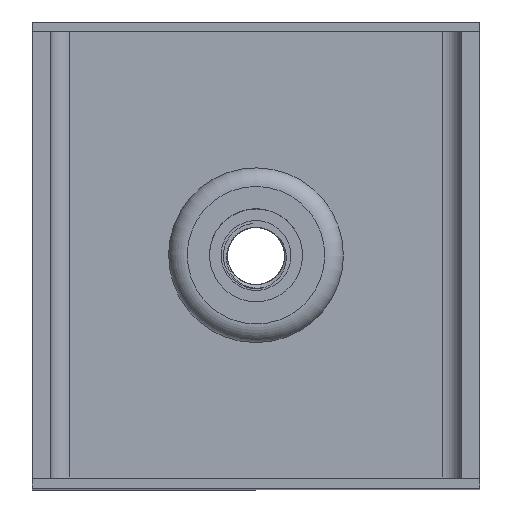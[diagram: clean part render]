
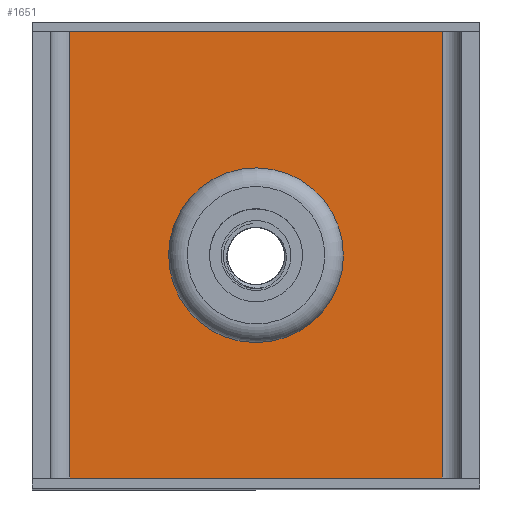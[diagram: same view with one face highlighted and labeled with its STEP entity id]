
A CAD part, top view. The second image highlights one B-rep face of the part: STEP entity #1651.
In plain terms, the highlighted planar face has unit normal (0, 0, 1).
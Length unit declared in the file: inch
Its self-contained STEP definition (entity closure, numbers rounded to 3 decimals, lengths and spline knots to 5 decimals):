
#1083=CARTESIAN_POINT('',(2.6875,-2.625,0.25));
#1084=VERTEX_POINT('',#1083);
#1085=CARTESIAN_POINT('',(1.75,-2.625,0.25));
#1086=DIRECTION('',(0.0,0.0,-1.0));
#1087=DIRECTION('',(-1.0,0.0,0.0));
#1088=AXIS2_PLACEMENT_3D('',#1085,#1086,#1087);
#1089=CIRCLE('',#1088,0.9375);
#1090=EDGE_CURVE('',#1084,#1084,#1089,.T.);
#1228=CARTESIAN_POINT('',(4.25,-5.625,0.25));
#1229=VERTEX_POINT('',#1228);
#1254=CARTESIAN_POINT('',(4.25,0.375,0.25));
#1255=VERTEX_POINT('',#1254);
#1332=CARTESIAN_POINT('',(4.25,-5.625,0.25));
#1333=DIRECTION('',(0.0,1.0,0.0));
#1334=VECTOR('',#1333,6.);
#1335=LINE('',#1332,#1334);
#1336=EDGE_CURVE('',#1229,#1255,#1335,.T.);
#1356=CARTESIAN_POINT('',(-0.75,0.375,0.25));
#1357=VERTEX_POINT('',#1356);
#1364=CARTESIAN_POINT('',(-0.75,0.375,0.25));
#1365=DIRECTION('',(1.0,0.0,0.0));
#1366=VECTOR('',#1365,5.0);
#1367=LINE('',#1364,#1366);
#1368=EDGE_CURVE('',#1357,#1255,#1367,.T.);
#1532=CARTESIAN_POINT('',(-0.75,-5.625,0.25));
#1533=VERTEX_POINT('',#1532);
#1610=CARTESIAN_POINT('',(-0.75,0.375,0.25));
#1611=DIRECTION('',(0.0,-1.0,0.0));
#1612=VECTOR('',#1611,6.0);
#1613=LINE('',#1610,#1612);
#1614=EDGE_CURVE('',#1357,#1533,#1613,.T.);
#1626=CARTESIAN_POINT('',(4.25,-5.625,0.25));
#1627=DIRECTION('',(-1.0,0.0,0.0));
#1628=VECTOR('',#1627,5.);
#1629=LINE('',#1626,#1628);
#1630=EDGE_CURVE('',#1229,#1533,#1629,.T.);
#1637=CARTESIAN_POINT('',(1.75,-2.625,0.25));
#1638=DIRECTION('',(0.0,0.0,1.0));
#1639=DIRECTION('',(1.0,0.0,0.0));
#1640=AXIS2_PLACEMENT_3D('',#1637,#1638,#1639);
#1641=PLANE('',#1640);
#1642=ORIENTED_EDGE('',*,*,#1336,.T.);
#1643=ORIENTED_EDGE('',*,*,#1368,.F.);
#1644=ORIENTED_EDGE('',*,*,#1614,.T.);
#1645=ORIENTED_EDGE('',*,*,#1630,.F.);
#1646=EDGE_LOOP('',(#1642,#1643,#1644,#1645));
#1647=FACE_OUTER_BOUND('',#1646,.T.);
#1648=ORIENTED_EDGE('',*,*,#1090,.T.);
#1649=EDGE_LOOP('',(#1648));
#1650=FACE_BOUND('',#1649,.T.);
#1651=ADVANCED_FACE('',(#1647,#1650),#1641,.T.);
